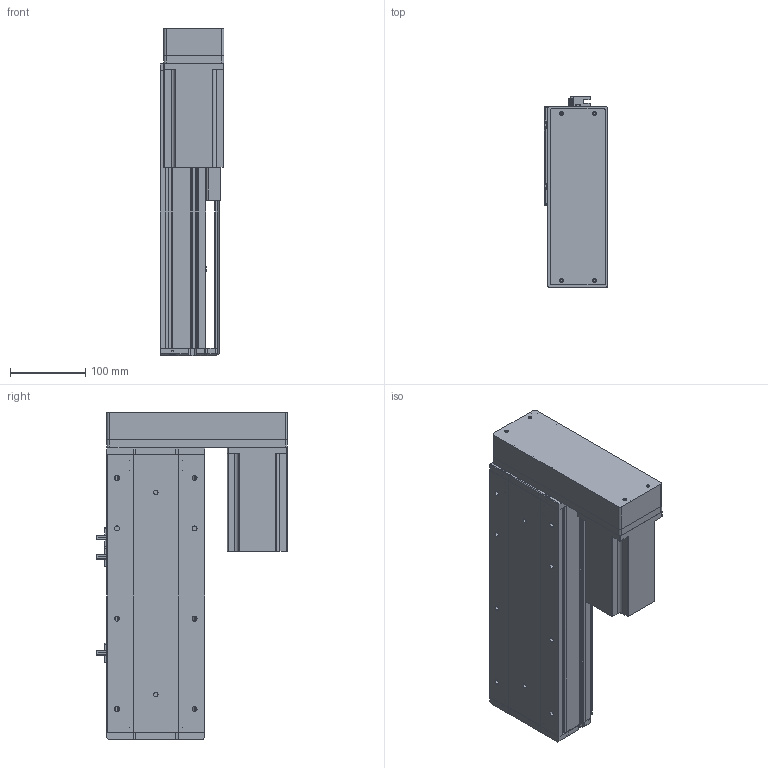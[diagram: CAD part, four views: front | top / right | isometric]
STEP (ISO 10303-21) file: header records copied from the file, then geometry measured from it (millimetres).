
FILE_DESCRIPTION (( 'STEP AP214' ), '1' );
FILE_NAME ('KSD130-P2010-S150-MR-CM.STEP', '2019-09-17T07:21:02', ( '微软用户' ), ( '微软中国' ), 'SwSTEP 2.0', 'SolidWorks 2014', '' );
FILE_SCHEMA (( 'AUTOMOTIVE_DESIGN' ));
Length unit declared in the file: millimetre
Products named in the file (10): 130宽底板半封闭丝杠-150行程; KSD130-P2010-S150-MR-CM; 130宽模组保护罩左右折; 台达ECMA－C20807AS伺服电机; 130宽模组马达安装板连板左右折丝杆; U倰嫖萇EEㄜSX672; 130宽盖板半封闭丝杠-150行程; 130宽滚珠丝杆安装板半封闭; 130宽马达安装板半封闭; 130遵傷裔圉猾敕
Assembly tree (11 placements, depth 2):
  KSD130-P2010-S150-MR-CM
    130宽底板半封闭丝杠-150行程
    130遵傷裔圉猾敕
    130宽马达安装板半封闭
    130宽滚珠丝杆安装板半封闭
    130宽盖板半封闭丝杠-150行程
    U倰嫖萇EEㄜSX672  x3
    130宽模组马达安装板连板左右折丝杆
    台达ECMA－C20807AS伺服电机
    130宽模组保护罩左右折
Bounding box: 85 x 253.7 x 435.5 mm (x, y, z)
Volume: 2543788.8 mm3; surface area: 624950.2 mm2
Topology: 12 solids, 12 shells, 1164 faces, 3251 edges, 2091 vertices
Faces by surface type: cylinder 531, plane 526, cone 107
Entity records: 36400 total; most frequent: CARTESIAN_POINT 6515, DIRECTION 5455, ORIENTED_EDGE 5254, EDGE_CURVE 2627, AXIS2_PLACEMENT_3D 1953, VERTEX_POINT 1715, VECTOR 1549, LINE 1549
